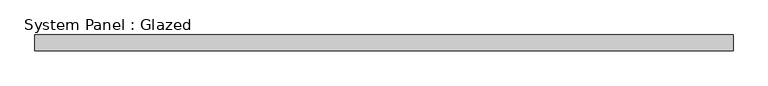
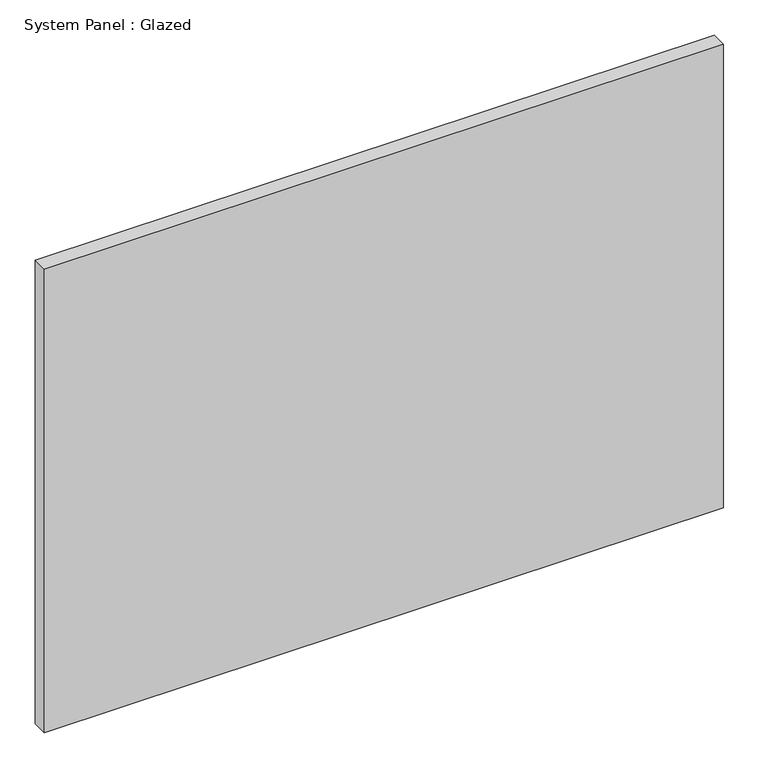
"""IFC4 building model written with IfcOpenShell, lengths in millimetres: plate geometry, System Panel : Glazed."""

from ifc_helpers import new_model, si_unit, origin, origin_with_axes, place, context, project, spatial, polyline, outline, extrude, source, transform, mapped, element, save


def system_panel_glazed_1e53cb40(model_context):
    return source(origin(), model_context, "Body", "SweptSolid", [
        extrude(outline(polyline([(554.049092, 19.05), (-554.049092, 19.05), (-554.049092, 44.45), (554.049092, 44.45), (554.049092, 19.05)])), origin_with_axes(), (0.0, 0.0, 1.0), 798.5967633),
    ])


if __name__ == "__main__":
    model = new_model("IFC4")
    model_context = context("Model", 3, world=origin())
    ifc_project = project(units=[si_unit("LENGTHUNIT", "METRE", prefix="MILLI")], contexts=[model_context])
    site = spatial("IfcSite", under=ifc_project)
    building = spatial("IfcBuilding", under=site)
    placement = place(None, origin())
    system_panel_glazed_shape = system_panel_glazed_1e53cb40(model_context)
    element("IfcPlate", 1, ObjectType="System Panel : Glazed", at=placement, inside=building, context=model_context, shape_type="MappedRepresentation", body=[
        mapped(system_panel_glazed_shape, transform((0.0, 0.0, 0.0), x_axis=(1.0, 0.0, 0.0), y_axis=(0.0, 1.0, 0.0), z_axis=(0.0, 0.0, 1.0))),
    ])
    save(model, "model.ifc")
